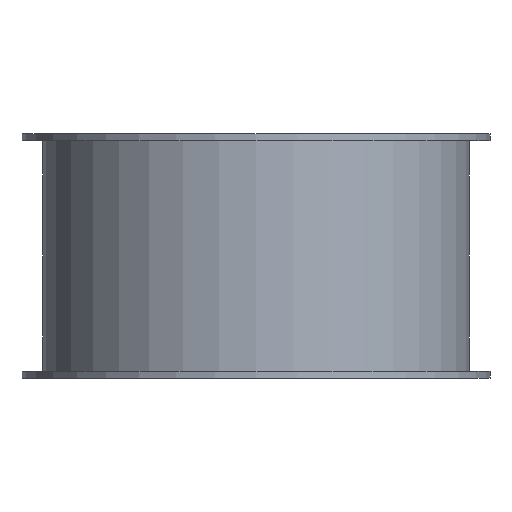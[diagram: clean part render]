
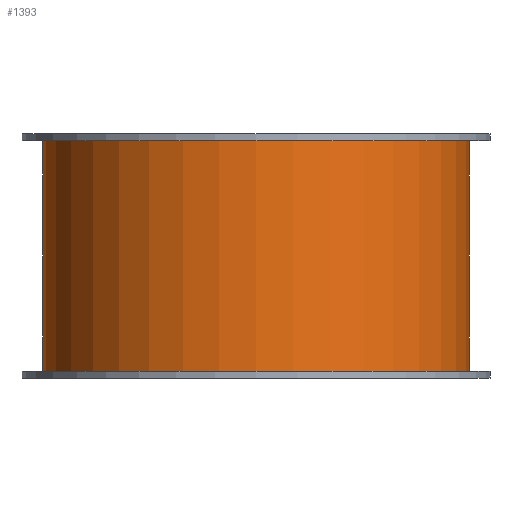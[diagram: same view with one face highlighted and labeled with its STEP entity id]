
A CAD part, left-side view. The second image highlights one B-rep face of the part: STEP entity #1393.
In plain terms, the highlighted cylindrical face has radius 61 mm (diameter 122 mm), a full revolution.
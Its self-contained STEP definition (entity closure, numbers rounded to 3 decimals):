
#938=CARTESIAN_POINT('',(-61.,0.,-33.0));
#939=VERTEX_POINT('',#938);
#940=CARTESIAN_POINT('',(0.0,0.0,-33.0));
#941=DIRECTION('',(0.0,0.0,1.0));
#942=DIRECTION('',(-1.0,0.0,0.0));
#943=AXIS2_PLACEMENT_3D('',#940,#941,#942);
#944=CIRCLE('',#943,61.);
#945=EDGE_CURVE('',#939,#939,#944,.T.);
#986=CARTESIAN_POINT('',(61.,0.,33.0));
#987=VERTEX_POINT('',#986);
#988=CARTESIAN_POINT('',(0.0,0.0,33.0));
#989=DIRECTION('',(0.0,0.0,-1.0));
#990=DIRECTION('',(-1.0,0.0,0.0));
#991=AXIS2_PLACEMENT_3D('',#988,#989,#990);
#992=CIRCLE('',#991,61.);
#993=EDGE_CURVE('',#987,#987,#992,.T.);
#1044=CARTESIAN_POINT('',(57.271,-21.,8.));
#1045=VERTEX_POINT('',#1044);
#1046=CARTESIAN_POINT('',(57.966,19.,8.));
#1047=VERTEX_POINT('',#1046);
#1048=CARTESIAN_POINT('',(0.0,0.0,8.));
#1049=DIRECTION('',(0.0,0.0,1.0));
#1050=DIRECTION('',(-1.0,0.0,0.0));
#1051=AXIS2_PLACEMENT_3D('',#1048,#1049,#1050);
#1052=CIRCLE('',#1051,61.);
#1053=EDGE_CURVE('',#1045,#1047,#1052,.T.);
#1088=CARTESIAN_POINT('',(55.182,-26.,3.));
#1089=VERTEX_POINT('',#1088);
#1090=CARTESIAN_POINT('',(0.0,0.0,29.));
#1091=DIRECTION('',(0.0,-0.707,0.707));
#1092=DIRECTION('',(0.0,-0.707,-0.707));
#1093=AXIS2_PLACEMENT_3D('',#1090,#1091,#1092);
#1094=ELLIPSE('',#1093,86.267,61.);
#1095=EDGE_CURVE('',#1089,#1045,#1094,.T.);
#1120=CARTESIAN_POINT('',(56.08,24.,3.));
#1121=VERTEX_POINT('',#1120);
#1122=CARTESIAN_POINT('',(0.0,0.0,27.));
#1123=DIRECTION('',(0.0,0.707,0.707));
#1124=DIRECTION('',(0.0,-0.707,0.707));
#1125=AXIS2_PLACEMENT_3D('',#1122,#1123,#1124);
#1126=ELLIPSE('',#1125,86.267,61.);
#1127=EDGE_CURVE('',#1047,#1121,#1126,.T.);
#1152=CARTESIAN_POINT('',(0.0,-61.,3.));
#1153=VERTEX_POINT('',#1152);
#1154=CARTESIAN_POINT('',(0.0,0.0,3.));
#1155=DIRECTION('',(0.0,0.0,1.0));
#1156=DIRECTION('',(-1.0,0.0,0.0));
#1157=AXIS2_PLACEMENT_3D('',#1154,#1155,#1156);
#1158=CIRCLE('',#1157,61.);
#1159=EDGE_CURVE('',#1153,#1089,#1158,.T.);
#1184=CARTESIAN_POINT('',(0.0,61.,3.));
#1185=VERTEX_POINT('',#1184);
#1186=CARTESIAN_POINT('',(0.0,0.0,3.));
#1187=DIRECTION('',(0.0,0.0,1.0));
#1188=DIRECTION('',(-1.0,0.0,0.0));
#1189=AXIS2_PLACEMENT_3D('',#1186,#1187,#1188);
#1190=CIRCLE('',#1189,61.);
#1191=EDGE_CURVE('',#1121,#1185,#1190,.T.);
#1216=CARTESIAN_POINT('',(0.0,61.,-3.));
#1217=VERTEX_POINT('',#1216);
#1218=CARTESIAN_POINT('',(0.0,-61.,-3.));
#1219=VERTEX_POINT('',#1218);
#1220=CARTESIAN_POINT('',(0.0,0.0,-3.));
#1221=DIRECTION('',(0.0,0.0,-1.0));
#1222=DIRECTION('',(-1.0,0.0,0.0));
#1223=AXIS2_PLACEMENT_3D('',#1220,#1221,#1222);
#1224=CIRCLE('',#1223,61.);
#1225=EDGE_CURVE('',#1217,#1219,#1224,.T.);
#1257=CARTESIAN_POINT('',(0.0,61.,-3.));
#1258=DIRECTION('',(0.0,0.0,1.0));
#1259=VECTOR('',#1258,6.);
#1260=LINE('',#1257,#1259);
#1261=EDGE_CURVE('',#1217,#1185,#1260,.T.);
#1279=CARTESIAN_POINT('',(0.0,-61.,-3.));
#1280=DIRECTION('',(0.0,0.0,1.0));
#1281=VECTOR('',#1280,6.);
#1282=LINE('',#1279,#1281);
#1283=EDGE_CURVE('',#1219,#1153,#1282,.T.);
#1372=CARTESIAN_POINT('',(0.0,0.0,0.0));
#1373=DIRECTION('',(0.0,0.0,1.0));
#1374=DIRECTION('',(-1.0,0.0,0.0));
#1375=AXIS2_PLACEMENT_3D('',#1372,#1373,#1374);
#1376=CYLINDRICAL_SURFACE('',#1375,61.);
#1377=ORIENTED_EDGE('',*,*,#945,.T.);
#1378=EDGE_LOOP('',(#1377));
#1379=FACE_OUTER_BOUND('',#1378,.T.);
#1380=ORIENTED_EDGE('',*,*,#993,.T.);
#1381=EDGE_LOOP('',(#1380));
#1382=FACE_BOUND('',#1381,.T.);
#1383=ORIENTED_EDGE('',*,*,#1225,.T.);
#1384=ORIENTED_EDGE('',*,*,#1283,.T.);
#1385=ORIENTED_EDGE('',*,*,#1159,.T.);
#1386=ORIENTED_EDGE('',*,*,#1095,.T.);
#1387=ORIENTED_EDGE('',*,*,#1053,.T.);
#1388=ORIENTED_EDGE('',*,*,#1127,.T.);
#1389=ORIENTED_EDGE('',*,*,#1191,.T.);
#1390=ORIENTED_EDGE('',*,*,#1261,.F.);
#1391=EDGE_LOOP('',(#1383,#1384,#1385,#1386,#1387,#1388,#1389,#1390));
#1392=FACE_BOUND('',#1391,.T.);
#1393=ADVANCED_FACE('',(#1379,#1382,#1392),#1376,.T.);
